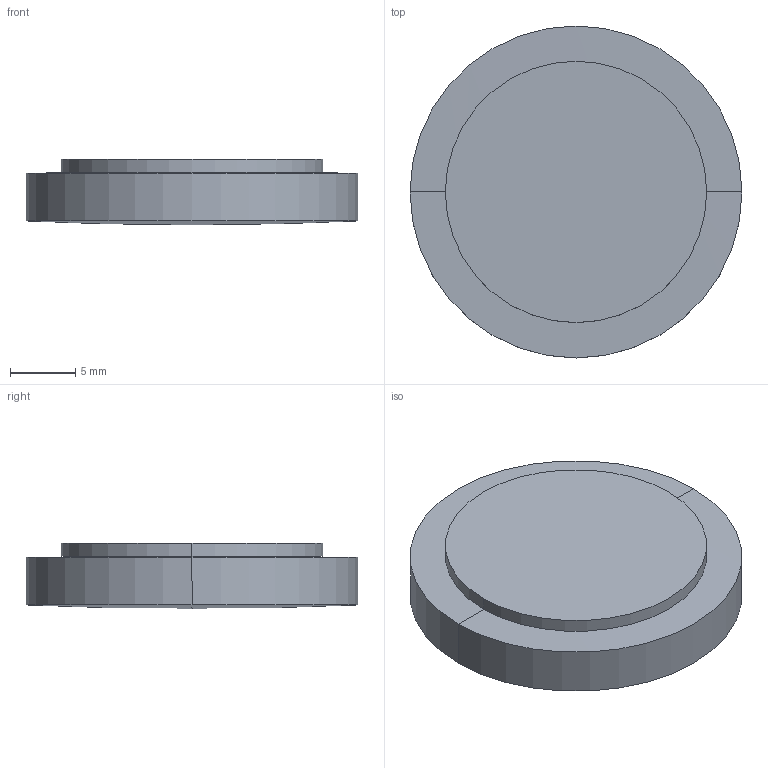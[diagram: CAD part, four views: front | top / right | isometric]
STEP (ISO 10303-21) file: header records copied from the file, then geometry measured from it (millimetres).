
FILE_DESCRIPTION(('STEP AP214'),'1');
FILE_NAME('LLV-25475.STEP','2020-03-09T17:42:23',(' '),(' '),'Spatial InterOp 3D',' ',' ');
FILE_SCHEMA(('AUTOMOTIVE_DESIGN { 1 0 10303 214 1 1 1 1 }'));
Length unit declared in the file: millimetre
Products named in the file (1): 1
Bounding box: 25.4 x 25.4 x 5 mm (x, y, z)
Volume: 2254.3 mm3; surface area: 1996.7 mm2
Topology: 2 solids, 2 shells, 10 faces, 20 edges, 10 vertices
Faces by surface type: sphere 4, cylinder 4, plane 2
Entity records: 255 total; most frequent: DIRECTION 52, CARTESIAN_POINT 38, ORIENTED_EDGE 32, AXIS2_PLACEMENT_3D 24, EDGE_CURVE 16, CIRCLE 12, ADVANCED_FACE 10, FACE_OUTER_BOUND 10
